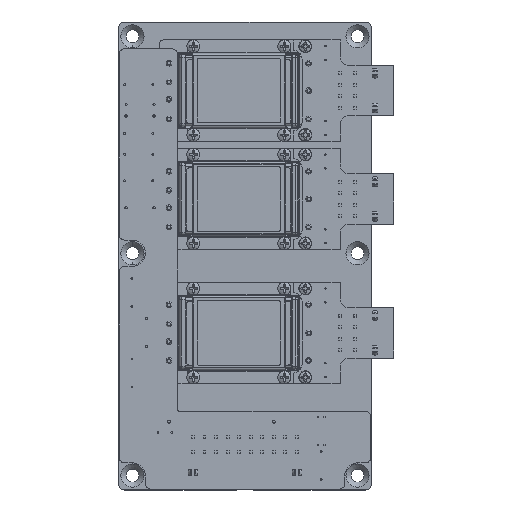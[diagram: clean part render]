
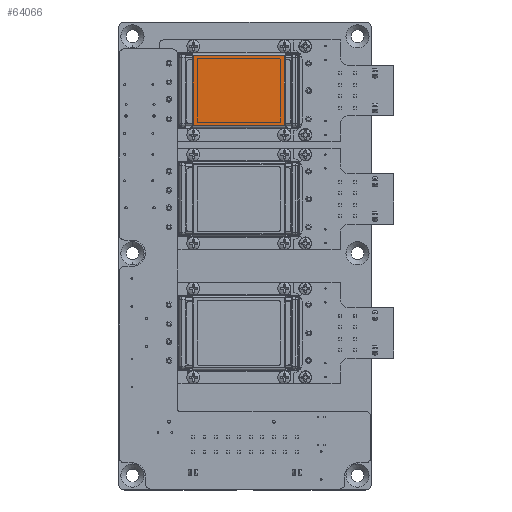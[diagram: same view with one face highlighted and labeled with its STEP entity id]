
A CAD part, top view. The second image highlights one B-rep face of the part: STEP entity #64066.
In plain terms, the highlighted planar face has unit normal (0, 0, 1).
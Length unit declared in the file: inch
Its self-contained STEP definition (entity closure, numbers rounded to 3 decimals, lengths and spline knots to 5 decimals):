
#64066 = ADVANCED_FACE ( 'NONE', ( #201650 ), #200406, .T. ) ;
#66574 = VERTEX_POINT ( 'NONE', #211141 ) ;
#66996 = VERTEX_POINT ( 'NONE', #211771 ) ;
#67204 = VERTEX_POINT ( 'NONE', #212069 ) ;
#67382 = VERTEX_POINT ( 'NONE', #213815 ) ;
#90530 = EDGE_LOOP ( 'NONE', ( #151512, #151516, #151514, #151518 ) ) ;
#144122 = EDGE_CURVE ( 'NONE', #66996, #66574, #227750, .T. ) ;
#144126 = EDGE_CURVE ( 'NONE', #66574, #67204, #227753, .T. ) ;
#144129 = EDGE_CURVE ( 'NONE', #67382, #66996, #227756, .T. ) ;
#144132 = EDGE_CURVE ( 'NONE', #67204, #67382, #227758, .T. ) ;
#151512 = ORIENTED_EDGE ( 'NONE', *, *, #144126, .F. ) ;
#151514 = ORIENTED_EDGE ( 'NONE', *, *, #144129, .F. ) ;
#151516 = ORIENTED_EDGE ( 'NONE', *, *, #144122, .F. ) ;
#151518 = ORIENTED_EDGE ( 'NONE', *, *, #144132, .F. ) ;
#196162 = AXIS2_PLACEMENT_3D ( 'NONE', #200409, #200412, #200415 ) ;
#200406 = PLANE ( 'NONE',  #196162 ) ;
#200409 = CARTESIAN_POINT ( 'NONE',  ( 2.38003, -2.06951, 1.88549 ) ) ;
#200412 = DIRECTION ( 'NONE',  ( 0., 0., 1. ) ) ;
#200415 = DIRECTION ( 'NONE',  ( 0., 1., 0. ) ) ;
#201650 = FACE_OUTER_BOUND ( 'NONE', #90530, .T. ) ;
#211141 = CARTESIAN_POINT ( 'NONE',  ( -6.33643, 4.08185, 1.88549 ) ) ;
#211771 = CARTESIAN_POINT ( 'NONE',  ( -6.33643, 3.07885, 1.88549 ) ) ;
#212069 = CARTESIAN_POINT ( 'NONE',  ( -5.03253, 4.08185, 1.88549 ) ) ;
#213815 = CARTESIAN_POINT ( 'NONE',  ( -5.03253, 3.07885, 1.88549 ) ) ;
#227750 = LINE ( 'NONE', #265853, #229987 ) ;
#227753 = LINE ( 'NONE', #265855, #229988 ) ;
#227756 = LINE ( 'NONE', #265857, #229989 ) ;
#227758 = LINE ( 'NONE', #265859, #229991 ) ;
#229987 = VECTOR ( 'NONE', #265854, 39.37008 ) ;
#229988 = VECTOR ( 'NONE', #265856, 39.37008 ) ;
#229989 = VECTOR ( 'NONE', #265858, 39.37008 ) ;
#229991 = VECTOR ( 'NONE', #265860, 39.37008 ) ;
#265853 = CARTESIAN_POINT ( 'NONE',  ( -6.33643, 4.08185, 1.88549 ) ) ;
#265854 = DIRECTION ( 'NONE',  ( 0., 1., 0. ) ) ;
#265855 = CARTESIAN_POINT ( 'NONE',  ( -5.03253, 4.08185, 1.88549 ) ) ;
#265856 = DIRECTION ( 'NONE',  ( 1., 0., 0. ) ) ;
#265857 = CARTESIAN_POINT ( 'NONE',  ( -6.33643, 3.07885, 1.88549 ) ) ;
#265858 = DIRECTION ( 'NONE',  ( -1., 0., 0. ) ) ;
#265859 = CARTESIAN_POINT ( 'NONE',  ( -5.03253, 3.07885, 1.88549 ) ) ;
#265860 = DIRECTION ( 'NONE',  ( 0., -1., 0. ) ) ;
